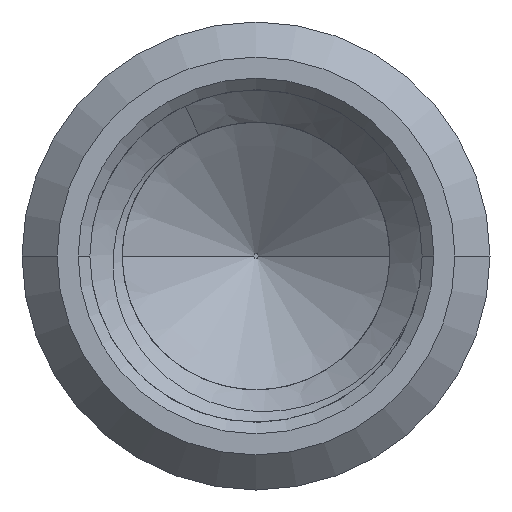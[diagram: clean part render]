
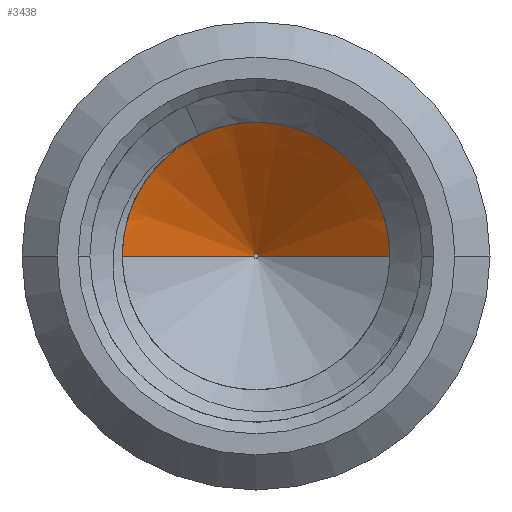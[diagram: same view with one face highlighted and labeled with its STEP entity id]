
A CAD part, front view. The second image highlights one B-rep face of the part: STEP entity #3438.
In plain terms, the highlighted conical face has half-angle 54.462 degrees and reference radius 0.742 mm.
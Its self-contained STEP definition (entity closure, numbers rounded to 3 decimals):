
#1158=CARTESIAN_POINT('',(0.,-18.4,0.));
#1159=DIRECTION('',(0.,1.,0.));
#1160=DIRECTION('',(-1.,0.,0.));
#1161=AXIS2_PLACEMENT_3D('',#1158,#1159,#1160);
#1566=DIRECTION('',(-0.814,-0.581,0.));
#1567=VECTOR('',#1566,1.72);
#1568=CARTESIAN_POINT('',(-0.02,-17.4,
0.));
#1569=LINE('',#1568,#1567);
#1570=CARTESIAN_POINT('',(0.,-17.4,0.));
#1571=DIRECTION('',(0.,1.,0.));
#1572=DIRECTION('',(-1.,0.,0.));
#1573=AXIS2_PLACEMENT_3D('',#1570,#1571,#1572);
#1580=DIRECTION('',(0.814,-0.581,0.));
#1581=VECTOR('',#1580,1.72);
#1582=CARTESIAN_POINT('',(0.02,-17.4,
0.));
#1583=LINE('',#1582,#1581);
#1935=CARTESIAN_POINT('',(-0.02,-17.4,0.));
#1936=CARTESIAN_POINT('',(0.02,-17.4,0.));
#1937=VERTEX_POINT('',#1935);
#1938=VERTEX_POINT('',#1936);
#1939=CARTESIAN_POINT('',(-1.42,-18.4,0.));
#1940=CARTESIAN_POINT('',(1.42,-18.4,0.));
#1941=VERTEX_POINT('',#1939);
#1942=VERTEX_POINT('',#1940);
#3424=CARTESIAN_POINT('',(0.,-17.916,0.));
#3425=DIRECTION('',(0.,-1.,0.));
#3426=DIRECTION('',(0.,0.,-1.));
#3427=AXIS2_PLACEMENT_3D('',#3424,#3425,#3426);
#3428=CONICAL_SURFACE('',#3427,0.742,54.462);
#3430=ORIENTED_EDGE('',*,*,#3429,.F.);
#3432=ORIENTED_EDGE('',*,*,#3431,.T.);
#3433=ORIENTED_EDGE('',*,*,#3263,.T.);
#3435=ORIENTED_EDGE('',*,*,#3434,.F.);
#3436=EDGE_LOOP('',(#3430,#3432,#3433,#3435));
#3437=FACE_OUTER_BOUND('',#3436,.F.);
#3438=ADVANCED_FACE('',(#3437),#3428,.F.);
#1162=CIRCLE('',#1161,1.42);
#1574=CIRCLE('',#1573,0.02);
#3263=EDGE_CURVE('',#1941,#1942,#1162,.T.);
#3429=EDGE_CURVE('',#1937,#1938,#1574,.T.);
#3431=EDGE_CURVE('',#1937,#1941,#1569,.T.);
#3434=EDGE_CURVE('',#1938,#1942,#1583,.T.);
